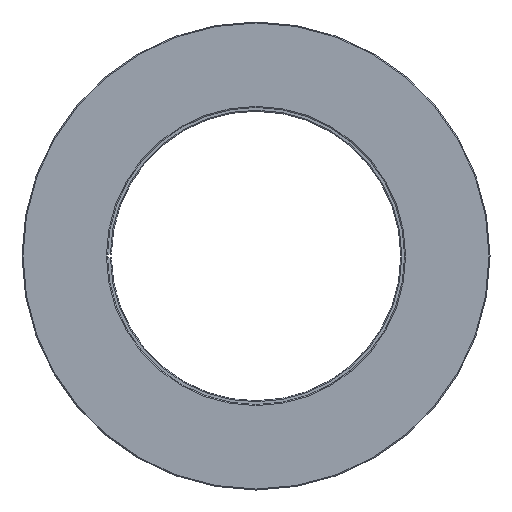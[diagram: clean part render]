
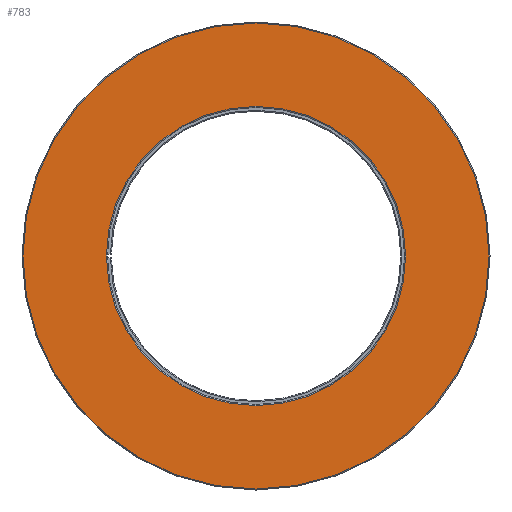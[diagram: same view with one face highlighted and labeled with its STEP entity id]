
A CAD part, left-side view. The second image highlights one B-rep face of the part: STEP entity #783.
In plain terms, the highlighted planar face has unit normal (-1, 0, 0).
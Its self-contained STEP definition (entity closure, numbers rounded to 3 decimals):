
#783 = ADVANCED_FACE( '', ( #2347, #2348 ), #2349, .T. );
#2347 = FACE_OUTER_BOUND( '', #4662, .T. );
#2348 = FACE_BOUND( '', #4663, .T. );
#2349 = PLANE( '', #4664 );
#4662 = EDGE_LOOP( '', ( #8553 ) );
#4663 = EDGE_LOOP( '', ( #8554 ) );
#4664 = AXIS2_PLACEMENT_3D( '', #8555, #8556, #8557 );
#8553 = ORIENTED_EDGE( '', *, *, #10664, .F. );
#8554 = ORIENTED_EDGE( '', *, *, #10665, .T. );
#8555 = CARTESIAN_POINT( '', ( -140., 198.25, 0. ) );
#8556 = DIRECTION( '', ( -1., 0., 0. ) );
#8557 = DIRECTION( '', ( 0., 0., 1. ) );
#10664 = EDGE_CURVE( '', #10915, #10915, #10916, .F. );
#10665 = EDGE_CURVE( '', #10917, #10917, #10918, .T. );
#10915 = VERTEX_POINT( '', #11192 );
#10916 = CIRCLE( '', #11193, 241.5 );
#10917 = VERTEX_POINT( '', #11194 );
#10918 = CIRCLE( '', #11195, 155. );
#11192 = CARTESIAN_POINT( '', ( -140., 0., 241.5 ) );
#11193 = AXIS2_PLACEMENT_3D( '', #11487, #11488, #11489 );
#11194 = CARTESIAN_POINT( '', ( -140., 155., 0. ) );
#11195 = AXIS2_PLACEMENT_3D( '', #11490, #11491, #11492 );
#11487 = CARTESIAN_POINT( '', ( -140., 0., 0. ) );
#11488 = DIRECTION( '', ( -1., 0., 0. ) );
#11489 = DIRECTION( '', ( 0., 0., 1. ) );
#11490 = CARTESIAN_POINT( '', ( -140., 0., 0. ) );
#11491 = DIRECTION( '', ( 1., 0., 0. ) );
#11492 = DIRECTION( '', ( 0., 1., 0. ) );
